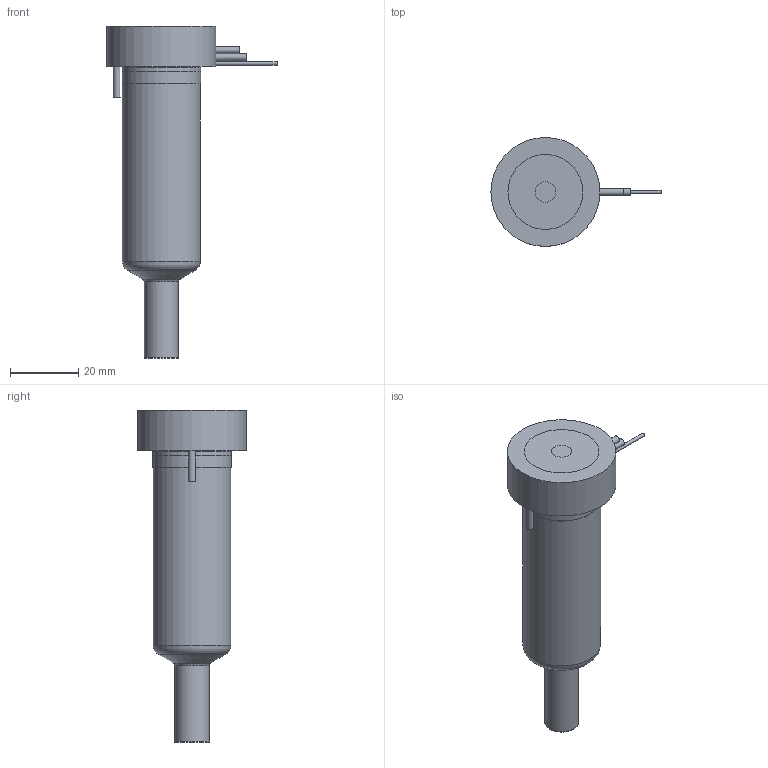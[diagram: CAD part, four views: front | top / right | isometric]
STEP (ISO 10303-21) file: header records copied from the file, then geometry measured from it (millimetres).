
FILE_DESCRIPTION(/* description */ (''),/* implementation_level */ '2;1');
FILE_NAME(/* name */ 'MXYCN13065P4U_250C_a',/* time_stamp */ '2016-02-29T10:17:18+13:00',/* author */ (''),/* organization */ (''),/* preprocessor_version */ 'ST-DEVELOPER v9',/* originating_system */ 'UGS - NX 4.0',/* authorisation */ '');
FILE_SCHEMA (('CONFIG_CONTROL_DESIGN'));
Length unit declared in the file: millimetre
Products named in the file (1): mattB1369xuq
Bounding box: 49.95 x 32 x 97.5 mm (x, y, z)
Volume: 60532.8 mm3; surface area: 15168.3 mm2
Topology: 2 solids, 2 shells, 71 faces, 156 edges, 102 vertices
Faces by surface type: plane 31, cylinder 26, torus 7, cone 5, bspline 1, sphere 1
Full cylindrical faces by diameter (mm): 1 x2, 1.3 x1, 2 x3, 4 x1, 6 x1, 9.61 x1, 9.995 x2, 12.6 x1, 18.8 x1, 22.9 x1, 23 x2, 32 x1
Entity records: 2121 total; most frequent: CARTESIAN_POINT 614, DIRECTION 314, ORIENTED_EDGE 234, AXIS2_PLACEMENT_3D 141, EDGE_CURVE 117, EDGE_LOOP 114, VERTEX_POINT 91, ADVANCED_FACE 71
